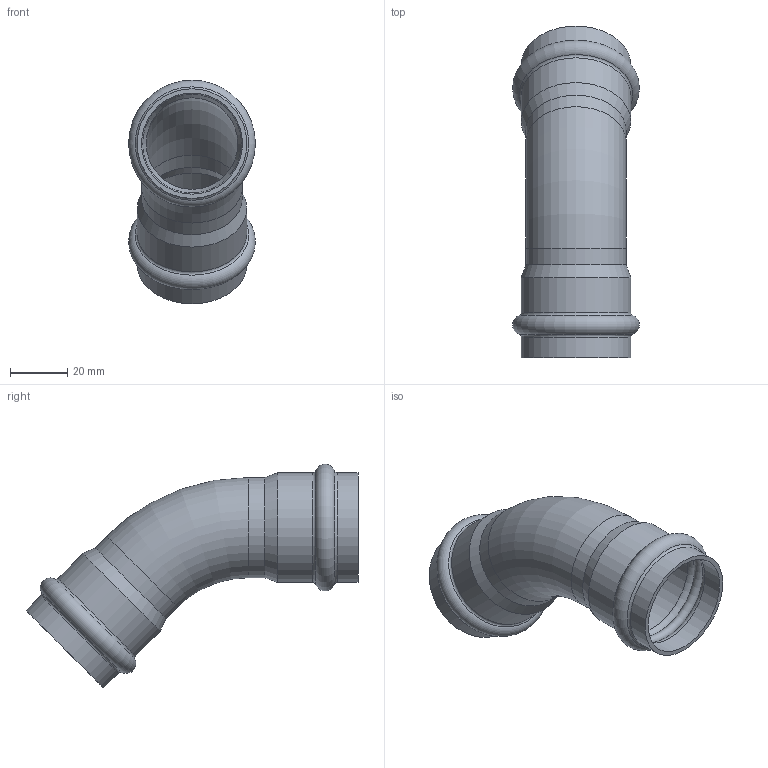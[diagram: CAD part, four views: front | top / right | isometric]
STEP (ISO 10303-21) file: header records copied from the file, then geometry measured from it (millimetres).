
FILE_DESCRIPTION(('STEP AP203'), '1');
FILE_NAME('VTi.959.I.003535', '', ('UNSPECIFIED'), ('UNSPECIFIED'), 'C3D Converter', 'C3D Toolkit', '');
FILE_SCHEMA(('CONFIG_CONTROL_DESIGN'));
Length unit declared in the file: millimetre
Products named in the file (1): ВР.302661.021.000 СБ
Bounding box: 44.28 x 115.97 x 78.11 mm (x, y, z)
Volume: 23094 mm3; surface area: 28987 mm2
Topology: 1 solids, 1 shells, 34 faces, 74 edges, 42 vertices
Faces by surface type: torus 16, cylinder 12, cone 4, plane 2
Full cylindrical faces by diameter (mm): 32 x2, 35 x2, 35.3 x4, 38.3 x4
Entity records: 808 total; most frequent: DIRECTION 154, CARTESIAN_POINT 119, ORIENTED_EDGE 84, AXIS2_PLACEMENT_3D 77, EDGE_LOOP 68, FACE_OUTER_BOUND 48, EDGE_CURVE 42, VERTEX_POINT 42
